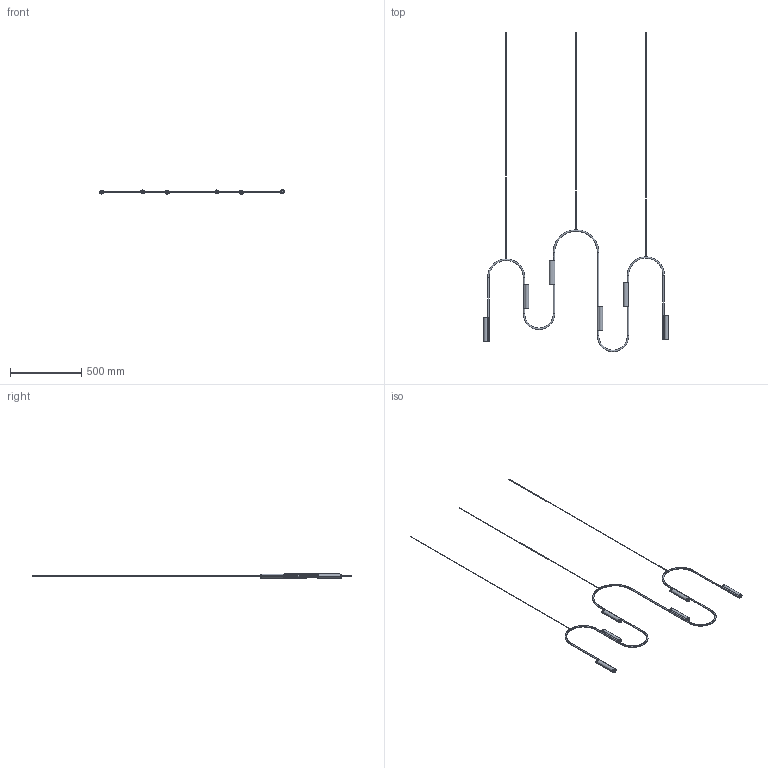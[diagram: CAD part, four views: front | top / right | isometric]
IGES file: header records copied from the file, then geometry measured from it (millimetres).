
Start section: SolidWorks IGES file using analytic representation for surfaces
Global section: file name: C:\Users\Joandita\Dropbox\Rakumba Industrial Design\PRODUCT\2 DEVELOPMENT\POP\CAD\LightWeight CAD\Pop - Pendant D.IGS; native system: SolidWorks 2017; preprocessor: SolidWorks 2017; author: Joandita; date: 240408.160537; units: millimetre
Bounding box: 1295.99 x 2240.43 x 31.42 mm (x, y, z)
Surface area: 524649.5 mm2 (no closed solid volume)
Topology: 0 solids, 0 shells, 613 faces, 9021 edges, 9021 vertices
Faces by surface type: bspline 320, revolution 293
